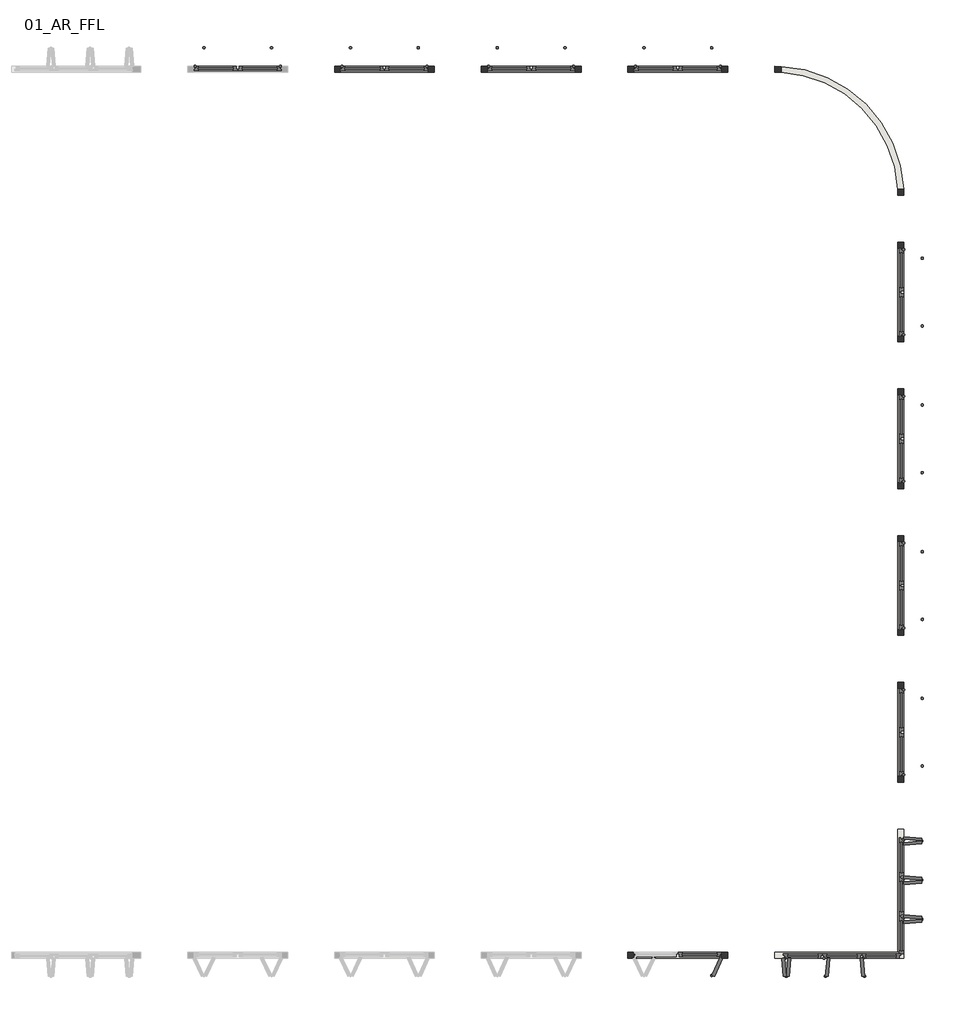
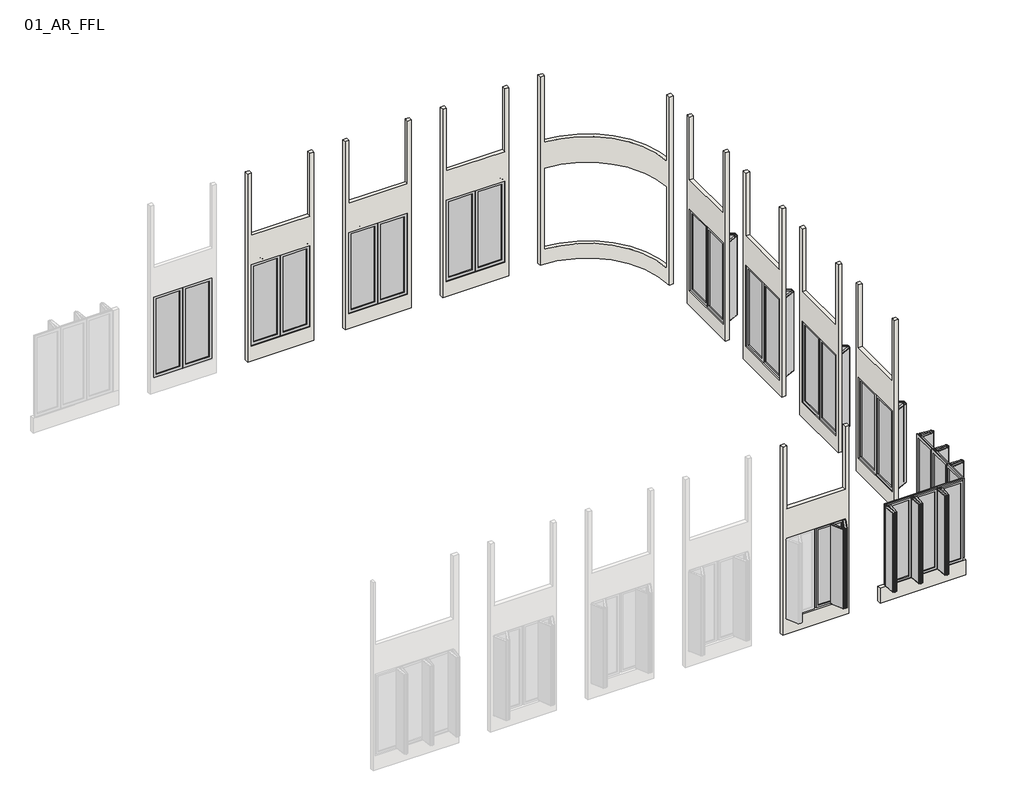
# One storey, part 2 of 2: 23 plates, 11 walls.
"""IFC4 building model written with IfcOpenShell, lengths in millimetres."""

from ifc_helpers import new_model, si_unit, frame, origin, place, context, project, spatial, polyline, circle_curve, outline, extrude, faceted_brep, transform, mapped, element, save
from ifc_brep_helpers import plane_surface, cylinder_surface, revolved_surface, advanced_brep
from components import vert_blinds_ff0d8fd8, vert_blinds_28f333ee, vert_blinds_a71b7738, vert_blinds_bae50e72, vert_blinds_dede1d0d

model = new_model("IFC4")

# Units and contexts
model_context = context("Model", 3, world=origin())
ifc_project = project(units=[si_unit("LENGTHUNIT", "METRE", prefix="MILLI")], contexts=[model_context])

# Site, building, storey
site = spatial("IfcSite", under=ifc_project)
building = spatial("IfcBuilding", under=site)
storey = spatial("IfcBuildingStorey", under=building, Name="01_AR_FFL", Elevation=6000.0)

# Plates
placement = place(None, origin())
vert_blinds_shape = vert_blinds_ff0d8fd8(model_context)
element("IfcPlate", 1, ObjectType="CURTAIN PANEL VODA STYLE BIFOLDING : VERT_BLINDS", at=placement, inside=storey, context=model_context, shape_type="MappedRepresentation", body=[
    mapped(vert_blinds_shape, transform((701.4224677, -16229.430099, 6100.0), x_axis=(-1.0, 0.0, 0.0), y_axis=(0.0, -1.0, 0.0), z_axis=(0.0, 0.0, 1.0))),
])
vert_blinds_2_shape = vert_blinds_28f333ee(model_context)
element("IfcPlate", 2, ObjectType="CURTAIN PANEL VODA STYLE BIFOLDING : VERT_BLINDS", at=placement, inside=storey, context=model_context, shape_type="MappedRepresentation", body=[
    mapped(vert_blinds_2_shape, transform((-48.5775323, -1154.430099, 6100.0), x_axis=(1.0, 0.0, 0.0), y_axis=(0.0, 1.0, 0.0), z_axis=(0.0, 0.0, 1.0))),
])
element("IfcPlate", 3, ObjectType="CURTAIN PANEL VODA STYLE BIFOLDING : VERT_BLINDS", at=placement, inside=storey, context=model_context, shape_type="MappedRepresentation", body=[
    mapped(vert_blinds_2_shape, transform((-2548.5775323, -1154.430099, 6100.0), x_axis=(1.0, 0.0, 0.0), y_axis=(0.0, 1.0, 0.0), z_axis=(0.0, 0.0, 1.0))),
])
element("IfcPlate", 4, ObjectType="CURTAIN PANEL VODA STYLE BIFOLDING : VERT_BLINDS", at=placement, inside=storey, context=model_context, shape_type="MappedRepresentation", body=[
    mapped(vert_blinds_2_shape, transform((-7548.5775323, -1154.430099, 6100.0), x_axis=(1.0, 0.0, 0.0), y_axis=(0.0, 1.0, 0.0), z_axis=(0.0, 0.0, 1.0))),
])
element("IfcPlate", 5, ObjectType="CURTAIN PANEL VODA STYLE BIFOLDING : VERT_BLINDS", at=placement, inside=storey, context=model_context, shape_type="MappedRepresentation", body=[
    mapped(vert_blinds_2_shape, transform((4124.232124, -4577.2397554, 6100.0), x_axis=(0.0, -1.0, 0.0), y_axis=(1.0, 0.0, 0.0), z_axis=(0.0, 0.0, 1.0))),
])
element("IfcPlate", 6, ObjectType="CURTAIN PANEL VODA STYLE BIFOLDING : VERT_BLINDS", at=placement, inside=storey, context=model_context, shape_type="MappedRepresentation", body=[
    mapped(vert_blinds_2_shape, transform((4124.232124, -7077.2397554, 6100.0), x_axis=(0.0, -1.0, 0.0), y_axis=(1.0, 0.0, 0.0), z_axis=(0.0, 0.0, 1.0))),
])
element("IfcPlate", 7, ObjectType="CURTAIN PANEL VODA STYLE BIFOLDING : VERT_BLINDS", at=placement, inside=storey, context=model_context, shape_type="MappedRepresentation", body=[
    mapped(vert_blinds_2_shape, transform((4124.232124, -9577.2397554, 6100.0), x_axis=(0.0, -1.0, 0.0), y_axis=(1.0, 0.0, 0.0), z_axis=(0.0, 0.0, 1.0))),
])
element("IfcPlate", 8, ObjectType="CURTAIN PANEL VODA STYLE BIFOLDING : VERT_BLINDS", at=placement, inside=storey, context=model_context, shape_type="MappedRepresentation", body=[
    mapped(vert_blinds_2_shape, transform((4124.232124, -12077.2397554, 6100.0), x_axis=(0.0, -1.0, 0.0), y_axis=(1.0, 0.0, 0.0), z_axis=(0.0, 0.0, 1.0))),
])
element("IfcPlate", 9, ObjectType="CURTAIN PANEL VODA STYLE BIFOLDING : VERT_BLINDS", at=placement, inside=storey, context=model_context, shape_type="MappedRepresentation", body=[
    mapped(vert_blinds_2_shape, transform((-5048.5775323, -1154.430099, 6100.0), x_axis=(1.0, 0.0, 0.0), y_axis=(0.0, 1.0, 0.0), z_axis=(0.0, 0.0, 1.0))),
])
vert_blinds_3_shape = vert_blinds_a71b7738(model_context)
element("IfcPlate", 10, ObjectType="CURTAIN PANEL VODA STYLE BIFOLDING : VERT_BLINDS", at=placement, inside=storey, context=model_context, shape_type="MappedRepresentation", body=[
    mapped(vert_blinds_3_shape, transform((2457.5252924, -16254.430099, 6100.0), x_axis=(1.0, 0.0, 0.0), y_axis=(0.0, 1.0, 0.0), z_axis=(0.0, 0.0, 1.0))),
])
element("IfcPlate", 11, ObjectType="CURTAIN PANEL VODA STYLE BIFOLDING : VERT_BLINDS", at=placement, inside=storey, context=model_context, shape_type="MappedRepresentation", body=[
    mapped(vert_blinds_3_shape, transform((3124.1919591, -16254.430099, 6100.0), x_axis=(1.0, 0.0, 0.0), y_axis=(0.0, 1.0, 0.0), z_axis=(0.0, 0.0, 1.0))),
])
element("IfcPlate", 12, ObjectType="CURTAIN PANEL VODA STYLE BIFOLDING : VERT_BLINDS", at=placement, inside=storey, context=model_context, shape_type="MappedRepresentation", body=[
    mapped(vert_blinds_3_shape, transform((3790.8586258, -16254.430099, 6100.0), x_axis=(1.0, 0.0, 0.0), y_axis=(0.0, 1.0, 0.0), z_axis=(0.0, 0.0, 1.0))),
])
vert_blinds_4_shape = vert_blinds_bae50e72(model_context)
element("IfcPlate", 13, ObjectType="CURTAIN PANEL VODA STYLE BIFOLDING : VERT_BLINDS", at=placement, inside=storey, context=model_context, shape_type="MappedRepresentation", body=[
    mapped(vert_blinds_4_shape, transform((4124.1919591, -15921.0967657, 6100.0), x_axis=(0.0, -1.0, 0.0), y_axis=(1.0, 0.0, 0.0), z_axis=(0.0, 0.0, 1.0))),
])
element("IfcPlate", 14, ObjectType="CURTAIN PANEL VODA STYLE BIFOLDING : VERT_BLINDS", at=placement, inside=storey, context=model_context, shape_type="MappedRepresentation", body=[
    mapped(vert_blinds_4_shape, transform((4124.1919591, -14587.7634324, 6100.0), x_axis=(0.0, -1.0, 0.0), y_axis=(1.0, 0.0, 0.0), z_axis=(0.0, 0.0, 1.0))),
])
element("IfcPlate", 15, ObjectType="CURTAIN PANEL VODA STYLE BIFOLDING : VERT_BLINDS", at=placement, inside=storey, context=model_context, shape_type="MappedRepresentation", body=[
    mapped(vert_blinds_4_shape, transform((4124.1919591, -15254.430099, 6100.0), x_axis=(0.0, -1.0, 0.0), y_axis=(1.0, 0.0, 0.0), z_axis=(0.0, 0.0, 1.0))),
])
vert_blinds_5_shape = vert_blinds_dede1d0d(model_context)
element("IfcPlate", 16, ObjectType="CURTAIN PANEL VODA STYLE BIFOLDING : VERT_BLINDS", at=placement, inside=storey, context=model_context, shape_type="MappedRepresentation", body=[
    mapped(vert_blinds_5_shape, transform((701.4224677, -1154.430099, 6100.0), x_axis=(-1.0, 0.0, 0.0), y_axis=(0.0, -1.0, 0.0), z_axis=(0.0, 0.0, 1.0))),
])
element("IfcPlate", 17, ObjectType="CURTAIN PANEL VODA STYLE BIFOLDING : VERT_BLINDS", at=placement, inside=storey, context=model_context, shape_type="MappedRepresentation", body=[
    mapped(vert_blinds_5_shape, transform((-1798.5775323, -1154.430099, 6100.0), x_axis=(-1.0, 0.0, 0.0), y_axis=(0.0, -1.0, 0.0), z_axis=(0.0, 0.0, 1.0))),
])
element("IfcPlate", 18, ObjectType="CURTAIN PANEL VODA STYLE BIFOLDING : VERT_BLINDS", at=placement, inside=storey, context=model_context, shape_type="MappedRepresentation", body=[
    mapped(vert_blinds_5_shape, transform((-6798.5775323, -1154.430099, 6100.0), x_axis=(-1.0, 0.0, 0.0), y_axis=(0.0, -1.0, 0.0), z_axis=(0.0, 0.0, 1.0))),
])
element("IfcPlate", 19, ObjectType="CURTAIN PANEL VODA STYLE BIFOLDING : VERT_BLINDS", at=placement, inside=storey, context=model_context, shape_type="MappedRepresentation", body=[
    mapped(vert_blinds_5_shape, transform((4124.232124, -5327.2397554, 6100.0), x_axis=(0.0, 1.0, 0.0), y_axis=(-1.0, 0.0, 0.0), z_axis=(0.0, 0.0, 1.0))),
])
element("IfcPlate", 20, ObjectType="CURTAIN PANEL VODA STYLE BIFOLDING : VERT_BLINDS", at=placement, inside=storey, context=model_context, shape_type="MappedRepresentation", body=[
    mapped(vert_blinds_5_shape, transform((4124.232124, -7827.2397554, 6100.0), x_axis=(0.0, 1.0, 0.0), y_axis=(-1.0, 0.0, 0.0), z_axis=(0.0, 0.0, 1.0))),
])
element("IfcPlate", 21, ObjectType="CURTAIN PANEL VODA STYLE BIFOLDING : VERT_BLINDS", at=placement, inside=storey, context=model_context, shape_type="MappedRepresentation", body=[
    mapped(vert_blinds_5_shape, transform((4124.232124, -10327.2397554, 6100.0), x_axis=(0.0, 1.0, 0.0), y_axis=(-1.0, 0.0, 0.0), z_axis=(0.0, 0.0, 1.0))),
])
element("IfcPlate", 22, ObjectType="CURTAIN PANEL VODA STYLE BIFOLDING : VERT_BLINDS", at=placement, inside=storey, context=model_context, shape_type="MappedRepresentation", body=[
    mapped(vert_blinds_5_shape, transform((4124.232124, -12827.2397554, 6100.0), x_axis=(0.0, 1.0, 0.0), y_axis=(-1.0, 0.0, 0.0), z_axis=(0.0, 0.0, 1.0))),
])
element("IfcPlate", 23, ObjectType="CURTAIN PANEL VODA STYLE BIFOLDING : VERT_BLINDS", at=placement, inside=storey, context=model_context, shape_type="MappedRepresentation", body=[
    mapped(vert_blinds_5_shape, transform((-4298.5775323, -1154.430099, 6100.0), x_axis=(-1.0, 0.0, 0.0), y_axis=(0.0, -1.0, 0.0), z_axis=(0.0, 0.0, 1.0))),
])

# Walls
element("IfcWall", 24, ObjectType="Generic - 100mm", at=placement, inside=storey, context=model_context, shape_type="Brep", body=[
    faceted_brep([(-3023.5775323, -1204.430099, 5700.0), (-1323.5775323, -1204.430099, 5700.0), (-1323.5775323, -1204.430099, 9000.0), (-1323.5775323, -1204.430099, 10800.0), (-1423.5775323, -1204.430099, 10800.0), (-1423.5775323, -1204.430099, 9100.0), (-2923.5775323, -1204.430099, 9100.0), (-2923.5775323, -1204.430099, 10800.0), (-3023.5775323, -1204.430099, 10800.0), (-3023.5775323, -1204.430099, 9000.0), (-2923.5775323, -1204.430099, 6100.0), (-2923.5775323, -1204.430099, 8300.0), (-1423.5775323, -1204.430099, 8300.0), (-1423.5775323, -1204.430099, 6100.0), (-1323.5775323, -1104.430099, 5700.0), (-3023.5775323, -1104.430099, 5700.0), (-3023.5775323, -1104.430099, 10800.0), (-2923.5775323, -1104.430099, 10800.0), (-2923.5775323, -1104.430099, 9100.0), (-1423.5775323, -1104.430099, 9100.0), (-1423.5775323, -1104.430099, 10800.0), (-1323.5775323, -1104.430099, 10800.0), (-2923.5775323, -1104.430099, 8300.0), (-2923.5775323, -1104.430099, 6100.0), (-1423.5775323, -1104.430099, 6100.0), (-1423.5775323, -1104.430099, 8300.0)], [[[0, 1, 2, 3, 4, 5, 6, 7, 8, 9], [10, 11, 12, 13]], [[14, 15, 16, 17, 18, 19, 20, 21], [22, 23, 24, 25]], [[1, 0, 15, 14]], [[16, 8, 7, 17]], [[3, 21, 20, 4]], [[0, 9, 8, 16, 15]], [[3, 2, 1, 14, 21]], [[10, 23, 22, 11]], [[11, 22, 25, 12]], [[12, 25, 24, 13]], [[23, 10, 13, 24]], [[6, 18, 17, 7]], [[19, 5, 4, 20]], [[18, 6, 5, 19]]]),
])
element("IfcWall", 25, ObjectType="Generic - 100mm", at=placement, inside=storey, context=model_context, shape_type="Brep", body=[
    faceted_brep([(-523.5775323, -1204.430099, 5700.0), (1176.4224677, -1204.430099, 5700.0), (1176.4224677, -1204.430099, 9000.0), (1176.4224677, -1204.430099, 10800.0), (1076.4224677, -1204.430099, 10800.0), (1076.4224677, -1204.430099, 9100.0), (-423.5775323, -1204.430099, 9100.0), (-423.5775323, -1204.430099, 10800.0), (-523.5775323, -1204.430099, 10800.0), (-523.5775323, -1204.430099, 9000.0), (-423.5775323, -1204.430099, 6100.0), (-423.5775323, -1204.430099, 8300.0), (1076.4224677, -1204.430099, 8300.0), (1076.4224677, -1204.430099, 6100.0), (1176.4224677, -1104.430099, 5700.0), (-523.5775323, -1104.430099, 5700.0), (-523.5775323, -1104.430099, 10800.0), (-423.5775323, -1104.430099, 10800.0), (-423.5775323, -1104.430099, 9100.0), (1076.4224677, -1104.430099, 9100.0), (1076.4224677, -1104.430099, 10800.0), (1176.4224677, -1104.430099, 10800.0), (-423.5775323, -1104.430099, 8300.0), (-423.5775323, -1104.430099, 6100.0), (1076.4224677, -1104.430099, 6100.0), (1076.4224677, -1104.430099, 8300.0)], [[[0, 1, 2, 3, 4, 5, 6, 7, 8, 9], [10, 11, 12, 13]], [[14, 15, 16, 17, 18, 19, 20, 21], [22, 23, 24, 25]], [[1, 0, 15, 14]], [[16, 8, 7, 17]], [[3, 21, 20, 4]], [[0, 9, 8, 16, 15]], [[3, 2, 1, 14, 21]], [[10, 23, 22, 11]], [[11, 22, 25, 12]], [[12, 25, 24, 13]], [[23, 10, 13, 24]], [[6, 18, 17, 7]], [[19, 5, 4, 20]], [[18, 6, 5, 19]]]),
])
element("IfcWall", 26, ObjectType="Generic - 100mm", at=placement, inside=storey, context=model_context, shape_type="AdvancedBrep", body=[
    advanced_brep(
    [(4076.4224677, -3304.430099, 10800.0), (4176.4224677, -3304.430099, 10800.0), (4173.7511635, -3196.0483549, 10800.0), (4136.2966971, -3197.895771, 10800.0), (4111.3270528, -3199.1273817, 10800.0), (4073.8725864, -3200.9747978, 10800.0), (1976.4224677, -1104.430099, 10800.0), (1976.4224677, -1204.430099, 10800.0), (2086.3279758, -1207.308076, 10800.0), (2088.2905742, -1169.8594685, 10800.0), (2089.5989731, -1144.8937301, 10800.0), (2091.5615714, -1107.4451226, 10800.0), (1976.4224677, -1104.430099, 5700.0), (4176.4224677, -3304.430099, 5700.0), (4076.4224677, -3304.430099, 5700.0), (1976.4224677, -1204.430099, 5700.0), (2091.5615714, -1107.4451226, 9000.0), (4173.7511635, -3196.0483549, 9000.0), (4173.7511635, -3196.0483549, 8300.0), (2091.5615714, -1107.4451226, 8300.0), (2091.5615714, -1107.4451226, 6100.0), (4173.7511635, -3196.0483549, 6100.0), (4073.8725864, -3200.9747978, 9000.0), (2086.3279758, -1207.308076, 9000.0), (2086.3279758, -1207.308076, 8300.0), (4073.8725864, -3200.9747978, 8300.0), (4073.8725864, -3200.9747978, 6100.0), (2086.3279758, -1207.308076, 6100.0), (2088.2905742, -1169.8594685, 8300.0), (2089.5989731, -1144.8937301, 8300.0), (4136.2966971, -3197.895771, 8300.0), (4111.3270528, -3199.1273817, 8300.0), (4136.2966971, -3197.895771, 6100.0), (4111.3270528, -3199.1273817, 6100.0), (2089.5989731, -1144.8937301, 6100.0), (2088.2905742, -1169.8594685, 6100.0), (4136.2966971, -3197.895771, 9000.0), (4111.3270528, -3199.1273817, 9000.0), (2089.5989731, -1144.8937301, 9000.0), (2088.2905742, -1169.8594685, 9000.0)],
    [
        (0, 1),
        (1, 2, circle_curve(frame((1976.4224677, -3304.430099, 10800.0), z_axis=(0.0, 0.0, 1.0), x_axis=(1.0, 0.0, 0.0)), 2200.0)),
        (2, 3),
        (3, 4),
        (4, 5),
        (5, 0, circle_curve(frame((1976.4224677, -3304.430099, 10800.0), z_axis=(0.0, 0.0, -1.0), x_axis=(1.0, 0.0, 0.0)), 2100.0)),
        (6, 7),
        (7, 8, circle_curve(frame((1976.4224677, -3304.430099, 10800.0), z_axis=(0.0, 0.0, -1.0), x_axis=(1.0, 0.0, 0.0)), 2100.0)),
        (8, 9),
        (9, 10),
        (10, 11),
        (11, 6, circle_curve(frame((1976.4224677, -3304.430099, 10800.0), z_axis=(0.0, 0.0, 1.0), x_axis=(1.0, 0.0, 0.0)), 2200.0)),
        (12, 13, circle_curve(frame((1976.4224677, -3304.430099, 5700.0), z_axis=(0.0, 0.0, -1.0), x_axis=(1.0, 0.0, 0.0)), 2200.0)),
        (13, 14),
        (14, 15, circle_curve(frame((1976.4224677, -3304.430099, 5700.0), z_axis=(0.0, 0.0, 1.0), x_axis=(1.0, 0.0, 0.0)), 2100.0)),
        (15, 12),
        (12, 6),
        (11, 16),
        (16, 17, circle_curve(frame((1976.4224677, -3304.430099, 9000.0), z_axis=(0.0, 0.0, -1.0), x_axis=(1.0, 0.0, 0.0)), 2200.0)),
        (17, 2),
        (1, 13),
        (18, 19, circle_curve(frame((1976.4224677, -3304.430099, 8300.0), z_axis=(0.0, 0.0, 1.0), x_axis=(1.0, 0.0, 0.0)), 2200.0)),
        (19, 20),
        (20, 21, circle_curve(frame((1976.4224677, -3304.430099, 6100.0), z_axis=(0.0, 0.0, -1.0), x_axis=(1.0, 0.0, 0.0)), 2200.0)),
        (21, 18),
        (15, 7),
        (14, 0),
        (5, 22),
        (22, 23, circle_curve(frame((1976.4224677, -3304.430099, 9000.0), z_axis=(0.0, 0.0, 1.0), x_axis=(1.0, 0.0, 0.0)), 2100.0)),
        (23, 8),
        (24, 25, circle_curve(frame((1976.4224677, -3304.430099, 8300.0), z_axis=(0.0, 0.0, -1.0), x_axis=(1.0, 0.0, 0.0)), 2100.0)),
        (25, 26),
        (26, 27, circle_curve(frame((1976.4224677, -3304.430099, 6100.0), z_axis=(0.0, 0.0, 1.0), x_axis=(1.0, 0.0, 0.0)), 2100.0)),
        (27, 24),
        (24, 28),
        (28, 29),
        (29, 19),
        (18, 30),
        (30, 31),
        (31, 25),
        (21, 32),
        (32, 33),
        (33, 26),
        (20, 34),
        (34, 35),
        (35, 27),
        (17, 36),
        (36, 37),
        (37, 22),
        (16, 38),
        (38, 39),
        (39, 23),
    ],
    [
        plane_surface(frame((4176.4224677, -3304.430099, 10800.0), z_axis=(0.0, 0.0, 1.0), x_axis=(0.0, 1.0, 0.0))),
        plane_surface(frame((4176.4224677, -3304.430099, 5700.0), z_axis=(0.0, 0.0, -1.0), x_axis=(0.0, -1.0, 0.0))),
        cylinder_surface(frame((1976.4224677, -3304.430099, 5700.0), z_axis=(0.0, 0.0, 1.0), x_axis=(1.0, 0.0, 0.0)), 2200.0),
        plane_surface(frame((1976.4224677, -1104.430099, 10800.0), z_axis=(-1.0, 0.0, 0.0), x_axis=(0.0, 0.0, -1.0))),
        revolved_surface(polyline([(4076.4224677, -3304.430099, 5700.0), (4076.4224677, -3304.430099, 10800.0)]), (1976.4224677, -3304.430099, 5700.0), (0.0, 0.0, -1.0)),
        plane_surface(frame((4076.4224677, -3304.430099, 10800.0), z_axis=(0.0, -1.0, 0.0), x_axis=(0.0, 0.0, -1.0))),
        plane_surface(frame((3642.3763817, -1643.5919623, 8300.0), z_axis=(0.0, 0.0, -1.0), x_axis=(0.7060185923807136, -0.7081932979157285, 0.0))),
        plane_surface(frame((4325.966115, -3188.5404559, 7200.0), z_axis=(-0.049264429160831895, 0.9987857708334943, 0.0), x_axis=(0.0, 0.0, -1.0))),
        plane_surface(frame((3642.3763817, -1643.5919623, 6100.0), z_axis=(0.0, 0.0, 1.0), x_axis=(-0.7060185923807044, 0.7081932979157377, 0.0))),
        plane_surface(frame((2099.5375712, -955.2539815, 7200.0), z_axis=(0.9986295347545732, -0.052335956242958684, 0.0), x_axis=(0.0, 0.0, 1.0))),
        plane_surface(frame((4325.966115, -3188.5404559, 9900.0), z_axis=(-0.049264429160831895, 0.9987857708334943, 0.0), x_axis=(0.0, 0.0, -1.0))),
        plane_surface(frame((3642.3763817, -1643.5919623, 9000.0), z_axis=(0.0, 0.0, 1.0), x_axis=(-0.7060185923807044, 0.7081932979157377, 0.0))),
        plane_surface(frame((2099.5375712, -955.2539815, 9900.0), z_axis=(0.9986295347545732, -0.052335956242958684, 0.0), x_axis=(0.0, 0.0, 1.0))),
    ],
    [
        (0, [[1, 2, 3, 4, 5, 6]]),
        (0, [[7, 8, 9, 10, 11, 12]]),
        (1, [[13, 14, 15, 16]]),
        (2, [[-13, 17, -12, 18, 19, 20, -2, 21], [22, 23, 24, 25]]),
        (3, [[-7, -17, -16, 26]]),
        (4, [[-15, 27, -6, 28, 29, 30, -8, -26], [31, 32, 33, 34]]),
        (5, [[-1, -27, -14, -21]]),
        (6, [[35, 36, 37, -22, 38, 39, 40, -31]]),
        (7, [[-40, -39, -38, -25, 41, 42, 43, -32]]),
        (8, [[-43, -42, -41, -24, 44, 45, 46, -33]]),
        (9, [[-37, -36, -35, -34, -46, -45, -44, -23]]),
        (10, [[-20, 47, 48, 49, -28, -5, -4, -3]]),
        (11, [[-19, 50, 51, 52, -29, -49, -48, -47]]),
        (12, [[-18, -11, -10, -9, -30, -52, -51, -50]]),
    ],
),
])
element("IfcWall", 27, ObjectType="Generic - 100mm", at=placement, inside=storey, context=model_context, shape_type="Brep", body=[
    faceted_brep([(4074.232124, -4102.2397554, 5700.0), (4074.232124, -5802.2397554, 5700.0), (4074.232124, -5802.2397554, 9000.0), (4074.232124, -5802.2397554, 10800.0), (4074.232124, -5702.2397554, 10800.0), (4074.232124, -5702.2397554, 9100.0), (4074.232124, -4202.2397554, 9100.0), (4074.232124, -4202.2397554, 10800.0), (4074.232124, -4102.2397554, 10800.0), (4074.232124, -4202.2397554, 6100.0), (4074.232124, -4202.2397554, 8300.0), (4074.232124, -5702.2397554, 8300.0), (4074.232124, -5702.2397554, 6100.0), (4174.232124, -5802.2397554, 5700.0), (4174.232124, -4102.2397554, 5700.0), (4174.232124, -4102.2397554, 10800.0), (4174.232124, -4202.2397554, 10800.0), (4174.232124, -4202.2397554, 9100.0), (4174.232124, -5702.2397554, 9100.0), (4174.232124, -5702.2397554, 10800.0), (4174.232124, -5802.2397554, 10800.0), (4174.232124, -4202.2397554, 8300.0), (4174.232124, -4202.2397554, 6100.0), (4174.232124, -5702.2397554, 6100.0), (4174.232124, -5702.2397554, 8300.0)], [[[0, 1, 2, 3, 4, 5, 6, 7, 8], [9, 10, 11, 12]], [[13, 14, 15, 16, 17, 18, 19, 20], [21, 22, 23, 24]], [[1, 0, 14, 13]], [[15, 8, 7, 16]], [[3, 20, 19, 4]], [[0, 8, 15, 14]], [[9, 22, 21, 10]], [[10, 21, 24, 11]], [[11, 24, 23, 12]], [[22, 9, 12, 23]], [[3, 2, 1, 13, 20]], [[6, 17, 16, 7]], [[18, 5, 4, 19]], [[17, 6, 5, 18]]]),
])
element("IfcWall", 28, ObjectType="Generic - 100mm", at=placement, inside=storey, context=model_context, shape_type="Brep", body=[
    faceted_brep([(4074.232124, -6602.2397554, 5700.0), (4074.232124, -8302.2397554, 5700.0), (4074.232124, -8302.2397554, 9000.0), (4074.232124, -8302.2397554, 10800.0), (4074.232124, -8202.2397554, 10800.0), (4074.232124, -8202.2397554, 9100.0), (4074.232124, -6702.2397554, 9100.0), (4074.232124, -6702.2397554, 10800.0), (4074.232124, -6602.2397554, 10800.0), (4074.232124, -6602.2397554, 9000.0), (4074.232124, -6702.2397554, 6100.0), (4074.232124, -6702.2397554, 8300.0), (4074.232124, -8202.2397554, 8300.0), (4074.232124, -8202.2397554, 6100.0), (4174.232124, -8302.2397554, 5700.0), (4174.232124, -6602.2397554, 5700.0), (4174.232124, -6602.2397554, 10800.0), (4174.232124, -6702.2397554, 10800.0), (4174.232124, -6702.2397554, 9100.0), (4174.232124, -8202.2397554, 9100.0), (4174.232124, -8202.2397554, 10800.0), (4174.232124, -8302.2397554, 10800.0), (4174.232124, -6702.2397554, 8300.0), (4174.232124, -6702.2397554, 6100.0), (4174.232124, -8202.2397554, 6100.0), (4174.232124, -8202.2397554, 8300.0)], [[[0, 1, 2, 3, 4, 5, 6, 7, 8, 9], [10, 11, 12, 13]], [[14, 15, 16, 17, 18, 19, 20, 21], [22, 23, 24, 25]], [[1, 0, 15, 14]], [[16, 8, 7, 17]], [[3, 21, 20, 4]], [[10, 23, 22, 11]], [[11, 22, 25, 12]], [[12, 25, 24, 13]], [[23, 10, 13, 24]], [[0, 9, 8, 16, 15]], [[3, 2, 1, 14, 21]], [[6, 18, 17, 7]], [[19, 5, 4, 20]], [[18, 6, 5, 19]]]),
])
element("IfcWall", 29, ObjectType="Generic - 100mm", at=placement, inside=storey, context=model_context, shape_type="Brep", body=[
    faceted_brep([(4074.232124, -9102.2397554, 5700.0), (4074.232124, -10802.2397554, 5700.0), (4074.232124, -10802.2397554, 9000.0), (4074.232124, -10802.2397554, 10800.0), (4074.232124, -10702.2397554, 10800.0), (4074.232124, -10702.2397554, 9100.0), (4074.232124, -9202.2397554, 9100.0), (4074.232124, -9202.2397554, 10800.0), (4074.232124, -9102.2397554, 10800.0), (4074.232124, -9102.2397554, 9000.0), (4074.232124, -9202.2397554, 6100.0), (4074.232124, -9202.2397554, 8300.0), (4074.232124, -10702.2397554, 8300.0), (4074.232124, -10702.2397554, 6100.0), (4174.232124, -10802.2397554, 5700.0), (4174.232124, -9102.2397554, 5700.0), (4174.232124, -9102.2397554, 10800.0), (4174.232124, -9202.2397554, 10800.0), (4174.232124, -9202.2397554, 9100.0), (4174.232124, -10702.2397554, 9100.0), (4174.232124, -10702.2397554, 10800.0), (4174.232124, -10802.2397554, 10800.0), (4174.232124, -9202.2397554, 8300.0), (4174.232124, -9202.2397554, 6100.0), (4174.232124, -10702.2397554, 6100.0), (4174.232124, -10702.2397554, 8300.0)], [[[0, 1, 2, 3, 4, 5, 6, 7, 8, 9], [10, 11, 12, 13]], [[14, 15, 16, 17, 18, 19, 20, 21], [22, 23, 24, 25]], [[1, 0, 15, 14]], [[16, 8, 7, 17]], [[3, 21, 20, 4]], [[0, 9, 8, 16, 15]], [[3, 2, 1, 14, 21]], [[10, 23, 22, 11]], [[11, 22, 25, 12]], [[12, 25, 24, 13]], [[23, 10, 13, 24]], [[6, 18, 17, 7]], [[19, 5, 4, 20]], [[18, 6, 5, 19]]]),
])
element("IfcWall", 30, ObjectType="Generic - 100mm", at=placement, inside=storey, context=model_context, shape_type="Brep", body=[
    faceted_brep([(4074.232124, -11602.2397554, 5700.0), (4074.232124, -13304.430099, 5700.0), (4074.232124, -13304.430099, 9000.0), (4074.232124, -13304.430099, 10800.0), (4074.232124, -13202.2397554, 10800.0), (4074.232124, -13202.2397554, 9100.0), (4074.232124, -11702.2397554, 9100.0), (4074.232124, -11702.2397554, 10800.0), (4074.232124, -11602.2397554, 10800.0), (4074.232124, -11602.2397554, 9000.0), (4074.232124, -11702.2397554, 6100.0), (4074.232124, -11702.2397554, 8300.0), (4074.232124, -13202.2397554, 8300.0), (4074.232124, -13202.2397554, 6100.0), (4174.232124, -13304.430099, 5700.0), (4174.232124, -11602.2397554, 5700.0), (4174.232124, -11602.2397554, 10800.0), (4174.232124, -11702.2397554, 10800.0), (4174.232124, -11702.2397554, 9100.0), (4174.232124, -13202.2397554, 9100.0), (4174.232124, -13202.2397554, 10800.0), (4174.232124, -13304.430099, 10800.0), (4174.232124, -11702.2397554, 8300.0), (4174.232124, -11702.2397554, 6100.0), (4174.232124, -13202.2397554, 6100.0), (4174.232124, -13202.2397554, 8300.0)], [[[0, 1, 2, 3, 4, 5, 6, 7, 8, 9], [10, 11, 12, 13]], [[14, 15, 16, 17, 18, 19, 20, 21], [22, 23, 24, 25]], [[1, 0, 15, 14]], [[16, 8, 7, 17]], [[3, 21, 20, 4]], [[0, 9, 8, 16, 15]], [[3, 2, 1, 14, 21]], [[10, 23, 22, 11]], [[11, 22, 25, 12]], [[12, 25, 24, 13]], [[23, 10, 13, 24]], [[6, 18, 17, 7]], [[19, 5, 4, 20]], [[18, 6, 5, 19]]]),
])
element("IfcWall", 31, ObjectType="Generic - 100mm", at=placement, inside=storey, context=model_context, shape_type="Brep", body=[
    faceted_brep([(-523.5775323, -16304.430099, 5700.0), (1176.4224677, -16304.430099, 5700.0), (1176.4224677, -16304.430099, 10800.0), (1076.4224677, -16304.430099, 10800.0), (1076.4224677, -16304.430099, 9100.0), (-423.5775323, -16304.430099, 9100.0), (-423.5775323, -16304.430099, 10800.0), (-523.5775323, -16304.430099, 10800.0), (-423.5775323, -16304.430099, 6100.0), (-423.5775323, -16304.430099, 8300.0), (1076.4224677, -16304.430099, 8300.0), (1076.4224677, -16304.430099, 6100.0), (1176.4224677, -16204.430099, 5700.0), (-523.5775323, -16204.430099, 5700.0), (-523.5775323, -16204.430099, 9000.0), (-523.5775323, -16204.430099, 10800.0), (-423.5775323, -16204.430099, 10800.0), (-423.5775323, -16204.430099, 9100.0), (1076.4224677, -16204.430099, 9100.0), (1076.4224677, -16204.430099, 10800.0), (1176.4224677, -16204.430099, 10800.0), (1176.4224677, -16204.430099, 9000.0), (-423.5775323, -16204.430099, 8300.0), (-423.5775323, -16204.430099, 6100.0), (1076.4224677, -16204.430099, 6100.0), (1076.4224677, -16204.430099, 8300.0)], [[[0, 1, 2, 3, 4, 5, 6, 7], [8, 9, 10, 11]], [[12, 13, 14, 15, 16, 17, 18, 19, 20, 21], [22, 23, 24, 25]], [[1, 0, 13, 12]], [[15, 7, 6, 16]], [[2, 20, 19, 3]], [[0, 7, 15, 14, 13]], [[2, 1, 12, 21, 20]], [[8, 23, 22, 9]], [[9, 22, 25, 10]], [[10, 25, 24, 11]], [[23, 8, 11, 24]], [[5, 17, 16, 6]], [[18, 4, 3, 19]], [[17, 5, 4, 18]]]),
])
element("IfcWall", 32, ObjectType="Generic - 100mm", at=placement, inside=storey, context=model_context, shape_type="Brep", body=[
    faceted_brep([(1976.4224677, -16304.430099, 5700.0), (4174.232124, -16304.430099, 5700.0), (4174.232124, -16304.430099, 6100.0), (1976.4224677, -16304.430099, 6100.0), (1976.4224677, -16204.430099, 5700.0), (1976.4224677, -16204.430099, 6100.0), (4074.232124, -16204.430099, 6100.0), (4174.232124, -16204.430099, 6100.0), (4174.232124, -16204.430099, 5700.0), (4074.232124, -16204.430099, 5700.0)], [[[0, 1, 2, 3]], [[4, 5, 6, 7, 8, 9]], [[1, 0, 4, 9, 8]], [[3, 2, 7, 6, 5]], [[2, 1, 8, 7]], [[0, 3, 5, 4]]]),
])
element("IfcWall", 33, ObjectType="Generic - 100mm", at=placement, inside=storey, context=model_context, shape_type="SweptSolid", body=[
    extrude(outline(polyline([(4074.232124, -16204.430099), (4074.232124, -14104.430099), (4174.232124, -14104.430099), (4174.232124, -16204.430099), (4074.232124, -16204.430099)])), frame((0.0, 0.0, 5700.0), z_axis=(0.0, 0.0, 1.0), x_axis=(1.0, 0.0, 0.0)), (0.0, 0.0, 1.0), 400.0),
])
element("IfcWall", 34, ObjectType="Generic - 100mm", at=placement, inside=storey, context=model_context, shape_type="SweptSolid", body=[
    extrude(outline(polyline([(5700.0, -5523.5775323), (5700.0, -3823.5775323), (10800.0, -3823.5775323), (10800.0, -3923.5775323), (9100.0, -3923.5775323), (9100.0, -5423.5775323), (10800.0, -5423.5775323), (10800.0, -5523.5775323), (5700.0, -5523.5775323)]), holes=[polyline([(6100.0, -5423.5775323), (8300.0, -5423.5775323), (8300.0, -3923.5775323), (6100.0, -3923.5775323), (6100.0, -5423.5775323)])]), frame((0.0, -1204.430099, 0.0), z_axis=(0.0, 1.0, 0.0), x_axis=(0.0, 0.0, 1.0)), (0.0, 0.0, 1.0), 100.0),
])

save(model, "model.ifc")
